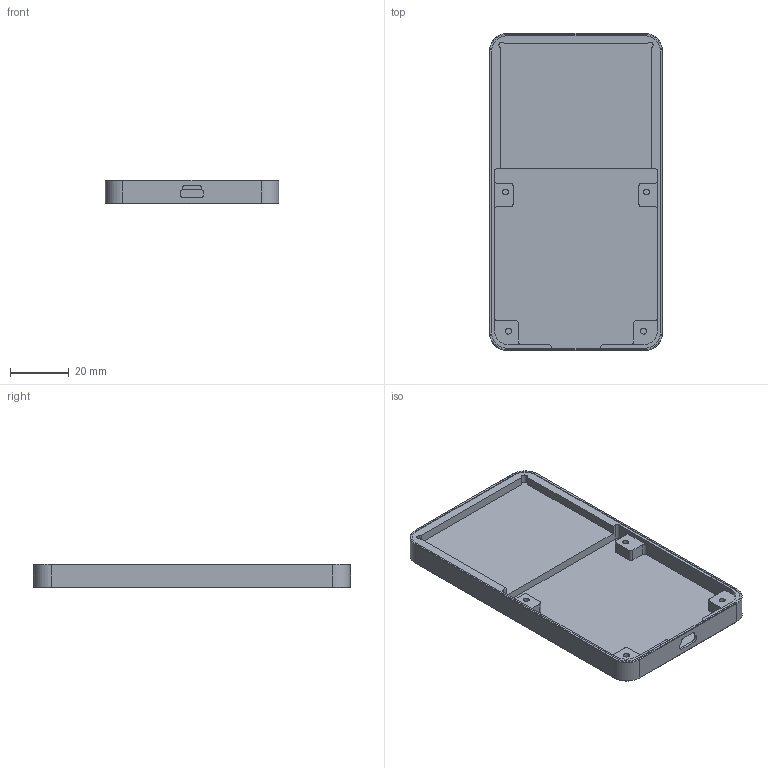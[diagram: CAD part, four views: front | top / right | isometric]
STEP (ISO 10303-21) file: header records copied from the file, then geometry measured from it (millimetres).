
FILE_DESCRIPTION(('CATIA V5 STEP Exchange'),'2;1');
FILE_NAME('F:\够快云库\系统集成开发部\1.部门成员\王洪尧\临时工作\手动控制盒\手动控制盒外壳.stp','2019-08-27T01:16:46+00:00',('none'),('none'),'CATIA Version 5 Release 21 GA (IN-10)','CATIA V5 STEP AP203','none');
FILE_SCHEMA(('CONFIG_CONTROL_DESIGN'));
Length unit declared in the file: millimetre
Products named in the file (1): Part20
Bounding box: 59 x 108 x 8 mm (x, y, z)
Volume: 24312.4 mm3; surface area: 17024.8 mm2
Topology: 1 solids, 1 shells, 121 faces, 328 edges, 214 vertices
Faces by surface type: plane 59, cylinder 54, cone 8
Entity records: 3666 total; most frequent: ORIENTED_EDGE 656, CARTESIAN_POINT 646, DIRECTION 534, EDGE_CURVE 328, AXIS2_PLACEMENT_3D 220, VERTEX_POINT 214, VECTOR 212, LINE 212
